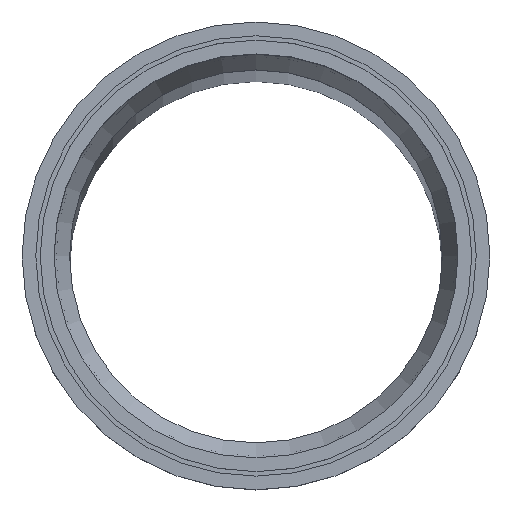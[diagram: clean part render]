
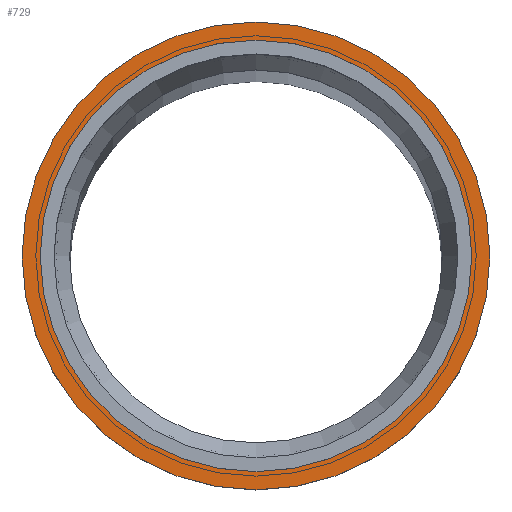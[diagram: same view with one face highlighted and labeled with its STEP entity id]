
A CAD part, top view. The second image highlights one B-rep face of the part: STEP entity #729.
In plain terms, the highlighted planar face has unit normal (0, 0, 1) as drawn and (1, 0, 0) by its records, which use the part's own axes.
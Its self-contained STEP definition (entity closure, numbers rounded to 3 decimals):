
#110=PLANE($,#811);
#138=FACE_BOUND($,#249,.T.);
#139=FACE_BOUND($,#250,.T.);
#249=EDGE_LOOP($,(#620));
#250=EDGE_LOOP($,(#621));
#299=CIRCLE($,#810,52.7);
#300=CIRCLE($,#812,48.6);
#370=VERTEX_POINT($,#1943);
#371=VERTEX_POINT($,#1946);
#457=EDGE_CURVE($,#370,#370,#299,.T.);
#458=EDGE_CURVE($,#371,#371,#300,.T.);
#620=ORIENTED_EDGE($,*,*,#458,.F.);
#621=ORIENTED_EDGE($,*,*,#457,.T.);
#729=ADVANCED_FACE($,(#138,#139),#110,.T.);
#810=AXIS2_PLACEMENT_3D($,#1944,#967,#968);
#811=AXIS2_PLACEMENT_3D($,#1945,#969,#970);
#812=AXIS2_PLACEMENT_3D($,#1947,#971,#972);
#967=DIRECTION('center_axis',(1.,0.,0.));
#968=DIRECTION('ref_axis',(0.,1.,0.));
#969=DIRECTION('center_axis',(1.,0.,0.));
#970=DIRECTION('ref_axis',(0.,0.,-1.));
#971=DIRECTION('center_axis',(1.,0.,0.));
#972=DIRECTION('ref_axis',(0.,1.,0.));
#1943=CARTESIAN_POINT('',(69.,52.7,0.));
#1944=CARTESIAN_POINT('Origin',(69.,0.,0.));
#1945=CARTESIAN_POINT('Origin',(69.,50.65,0.));
#1946=CARTESIAN_POINT('',(69.,48.6,0.));
#1947=CARTESIAN_POINT('Origin',(69.,0.,0.));
